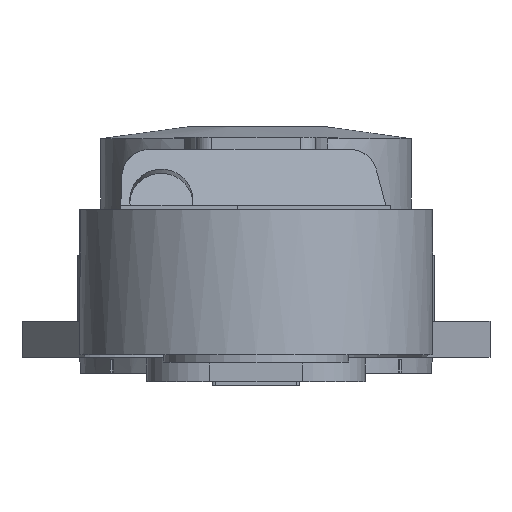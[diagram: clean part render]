
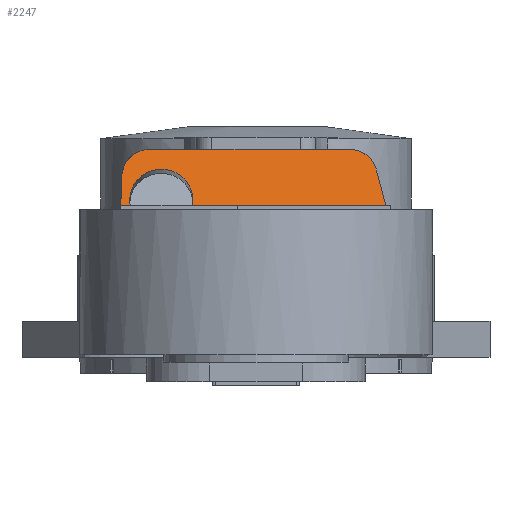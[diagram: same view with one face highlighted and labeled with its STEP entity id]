
A CAD part, left-side view. The second image highlights one B-rep face of the part: STEP entity #2247.
In plain terms, the highlighted planar face has unit normal (-0.966, 0, 0.259).
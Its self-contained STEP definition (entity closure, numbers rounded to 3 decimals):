
#88 = CARTESIAN_POINT ( 'NONE',  ( 834.042, -129.69, 429.765 ) ) ;
#103 = CARTESIAN_POINT ( 'NONE',  ( 834.462, -129.271, 431.33 ) ) ;
#111 = CARTESIAN_POINT ( 'NONE',  ( 832.242, 144.551, 423.047 ) ) ;
#152 = LINE ( 'NONE', #646, #1896 ) ;
#197 = CARTESIAN_POINT ( 'NONE',  ( 834.867, -128.73, 432.844 ) ) ;
#209 = CARTESIAN_POINT ( 'NONE',  ( 835.652, -127.412, 435.773 ) ) ;
#217 = CARTESIAN_POINT ( 'NONE',  ( 836.031, -126.636, 437.187 ) ) ;
#233 = CARTESIAN_POINT ( 'NONE',  ( 836.578, -125.285, 439.23 ) ) ;
#244 = CARTESIAN_POINT ( 'NONE',  ( 836.755, -124.807, 439.891 ) ) ;
#253 = CARTESIAN_POINT ( 'NONE',  ( 837.097, -123.805, 441.167 ) ) ;
#255 = FACE_OUTER_BOUND ( 'NONE', #2906, .T. ) ;
#262 = CARTESIAN_POINT ( 'NONE',  ( 837.263, -123.279, 441.784 ) ) ;
#273 = CARTESIAN_POINT ( 'NONE',  ( 837.741, -121.627, 443.569 ) ) ;
#288 = CARTESIAN_POINT ( 'NONE',  ( 838.037, -120.427, 444.673 ) ) ;
#339 = CARTESIAN_POINT ( 'NONE',  ( 838.444, -118.472, 446.193 ) ) ;
#349 = CARTESIAN_POINT ( 'NONE',  ( 838.572, -117.8, 446.672 ) ) ;
#366 = CARTESIAN_POINT ( 'NONE',  ( 838.813, -116.426, 447.569 ) ) ;
#386 = CARTESIAN_POINT ( 'NONE',  ( 838.925, -115.722, 447.988 ) ) ;
#399 = CARTESIAN_POINT ( 'NONE',  ( 839.239, -113.561, 449.159 ) ) ;
#406 = CARTESIAN_POINT ( 'NONE',  ( 839.417, -112.053, 449.824 ) ) ;
#420 = CARTESIAN_POINT ( 'NONE',  ( 839.708, -108.898, 450.91 ) ) ;
#427 = CARTESIAN_POINT ( 'NONE',  ( 839.817, -107.293, 451.316 ) ) ;
#446 = DIRECTION ( 'NONE',  ( -0.966, 0., 0.259 ) ) ;
#463 = CARTESIAN_POINT ( 'NONE',  ( 825.479, 102., 397.807 ) ) ;
#493 = CARTESIAN_POINT ( 'NONE',  ( 840., -102.388, 452. ) ) ;
#596 = CARTESIAN_POINT ( 'NONE',  ( 822.583, 69.894, 387. ) ) ;
#601 = CARTESIAN_POINT ( 'NONE',  ( 840., -100.712, 452. ) ) ;
#643 = CARTESIAN_POINT ( 'NONE',  ( 817.614, 146.457, 368.454 ) ) ;
#646 = CARTESIAN_POINT ( 'NONE',  ( 834.042, -129.69, 429.765 ) ) ;
#726 = VERTEX_POINT ( 'NONE', #111 ) ;
#770 = B_SPLINE_CURVE_WITH_KNOTS ( 'NONE', 3,
 ( #601, #493, #6117, #427, #420, #406, #399, #386, #366, #349, #339, #288, #273, #262, #253, #244, #233, #217, #209, #197, #103, #88 ),
 .UNSPECIFIED., .F., .F.,
 ( 4, 2, 2, 2, 2, 2, 2, 2, 2, 2, 4 ),
 ( 0., 0.005, 0.01, 0.015, 0.017, 0.02, 0.025, 0.027, 0.03, 0.035, 0.04 ),
 .UNSPECIFIED. ) ;
#1074 = CARTESIAN_POINT ( 'NONE',  ( 821.446, 132.22, 382.757 ) ) ;
#1154 =( BOUNDED_CURVE ( )  B_SPLINE_CURVE ( 3, ( #5841, #2236, #5350, #2258 ),
 .UNSPECIFIED., .F., .T. ) 
 B_SPLINE_CURVE_WITH_KNOTS ( ( 4, 4 ),
 ( 4.747, 6.283 ),
 .UNSPECIFIED. ) 
 CURVE ( )  GEOMETRIC_REPRESENTATION_ITEM ( )  RATIONAL_B_SPLINE_CURVE ( ( 1., 0.813, 0.813, 1. ) ) 
 REPRESENTATION_ITEM ( '' )  );
#1207 =( BOUNDED_CURVE ( )  B_SPLINE_CURVE ( 3, ( #1074, #4010, #643, #1496 ),
 .UNSPECIFIED., .F., .T. ) 
 B_SPLINE_CURVE_WITH_KNOTS ( ( 4, 4 ),
 ( 0.538, 1.536 ),
 .UNSPECIFIED. ) 
 CURVE ( )  GEOMETRIC_REPRESENTATION_ITEM ( )  RATIONAL_B_SPLINE_CURVE ( ( 1., 0.919, 0.919, 1. ) ) 
 REPRESENTATION_ITEM ( '' )  );
#1271 = VERTEX_POINT ( 'NONE', #4051 ) ;
#1281 = DIRECTION ( 'NONE',  ( -0.251, -0.251, -0.935 ) ) ;
#1496 = CARTESIAN_POINT ( 'NONE',  ( 814.825, 146.821, 358.047 ) ) ;
#1746 = AXIS2_PLACEMENT_3D ( 'NONE', #463, #446, #6151 ) ;
#1776 =( BOUNDED_CURVE ( )  B_SPLINE_CURVE ( 3, ( #2471, #2668, #2566, #2399 ),
 .UNSPECIFIED., .F., .T. ) 
 B_SPLINE_CURVE_WITH_KNOTS ( ( 4, 4 ),
 ( 5.052, 6.283 ),
 .UNSPECIFIED. ) 
 CURVE ( )  GEOMETRIC_REPRESENTATION_ITEM ( )  RATIONAL_B_SPLINE_CURVE ( ( 1., 0.878, 0.878, 1. ) ) 
 REPRESENTATION_ITEM ( '' )  );
#1896 = VECTOR ( 'NONE', #1281, 1000. ) ;
#2236 = CARTESIAN_POINT ( 'NONE',  ( 836.819, 143.954, 440.128 ) ) ;
#2247 = ADVANCED_FACE ( 'NONE', ( #255 ), #3399, .F. ) ;
#2258 = CARTESIAN_POINT ( 'NONE',  ( 840., 114.569, 452. ) ) ;
#2354 = CARTESIAN_POINT ( 'NONE',  ( 840., 114.569, 452. ) ) ;
#2399 = CARTESIAN_POINT ( 'NONE',  ( 822.583, -118.224, 387. ) ) ;
#2401 = CARTESIAN_POINT ( 'NONE',  ( 840., -100.712, 452. ) ) ;
#2471 = CARTESIAN_POINT ( 'NONE',  ( 817.224, -146.508, 367. ) ) ;
#2566 = CARTESIAN_POINT ( 'NONE',  ( 822.583, -131.38, 387. ) ) ;
#2668 = CARTESIAN_POINT ( 'NONE',  ( 820.548, -142.122, 379.404 ) ) ;
#2738 = CARTESIAN_POINT ( 'NONE',  ( 814.825, 146.821, 358.047 ) ) ;
#2773 = VERTEX_POINT ( 'NONE', #596 ) ;
#2829 = DIRECTION ( 'NONE',  ( 0., -1., 0. ) ) ;
#2906 = EDGE_LOOP ( 'NONE', ( #6165, #5975, #6194, #6199, #6170, #5790, #6022, #5968, #5533 ) ) ;
#3109 = LINE ( 'NONE', #2738, #4203 ) ;
#3378 = CARTESIAN_POINT ( 'NONE',  ( 840., 170., 452. ) ) ;
#3399 = PLANE ( 'NONE',  #4335 ) ;
#3417 = DIRECTION ( 'NONE',  ( 0.966, 0., -0.259 ) ) ;
#3425 = DIRECTION ( 'NONE',  ( -0.259, 0., -0.966 ) ) ;
#3640 = CARTESIAN_POINT ( 'NONE',  ( 822.583, 0., 387. ) ) ;
#3711 = CARTESIAN_POINT ( 'NONE',  ( 814.825, 146.821, 358.047 ) ) ;
#3739 = EDGE_CURVE ( 'NONE', #5193, #5880, #1776, .T. ) ;
#3963 = CARTESIAN_POINT ( 'NONE',  ( 817.224, -146.508, 367. ) ) ;
#3999 = CARTESIAN_POINT ( 'NONE',  ( 822.583, -118.224, 387. ) ) ;
#4010 = CARTESIAN_POINT ( 'NONE',  ( 820.016, 141.16, 377.418 ) ) ;
#4051 = CARTESIAN_POINT ( 'NONE',  ( 834.042, -129.69, 429.765 ) ) ;
#4065 = VERTEX_POINT ( 'NONE', #2401 ) ;
#4070 = VECTOR ( 'NONE', #2829, 1000. ) ;
#4074 = VERTEX_POINT ( 'NONE', #2354 ) ;
#4104 = LINE ( 'NONE', #5903, #4070 ) ;
#4203 = VECTOR ( 'NONE', #6325, 1000. ) ;
#4205 = EDGE_CURVE ( 'NONE', #1271, #5193, #152, .T. ) ;
#4214 = EDGE_CURVE ( 'NONE', #2773, #5343, #4859, .T. ) ;
#4225 = EDGE_CURVE ( 'NONE', #4065, #1271, #770, .T. ) ;
#4280 = VECTOR ( 'NONE', #5737, 1000. ) ;
#4313 = LINE ( 'NONE', #3640, #4280 ) ;
#4335 = AXIS2_PLACEMENT_3D ( 'NONE', #3378, #3417, #3425 ) ;
#4844 = EDGE_CURVE ( 'NONE', #2773, #5880, #4313, .T. ) ;
#4859 = CIRCLE ( 'NONE', #1746, 34. ) ;
#4937 = EDGE_CURVE ( 'NONE', #6109, #726, #3109, .T. ) ;
#5020 = EDGE_CURVE ( 'NONE', #726, #4074, #1154, .T. ) ;
#5065 = EDGE_CURVE ( 'NONE', #4074, #4065, #4104, .T. ) ;
#5193 = VERTEX_POINT ( 'NONE', #3963 ) ;
#5255 = EDGE_CURVE ( 'NONE', #5343, #6109, #1207, .T. ) ;
#5343 = VERTEX_POINT ( 'NONE', #6159 ) ;
#5350 = CARTESIAN_POINT ( 'NONE',  ( 840., 131.66, 452. ) ) ;
#5533 = ORIENTED_EDGE ( 'NONE', *, *, #5255, .F. ) ;
#5737 = DIRECTION ( 'NONE',  ( 0., -1., 0. ) ) ;
#5790 = ORIENTED_EDGE ( 'NONE', *, *, #5065, .F. ) ;
#5841 = CARTESIAN_POINT ( 'NONE',  ( 832.242, 144.551, 423.047 ) ) ;
#5880 = VERTEX_POINT ( 'NONE', #3999 ) ;
#5903 = CARTESIAN_POINT ( 'NONE',  ( 840., 170., 452. ) ) ;
#5968 = ORIENTED_EDGE ( 'NONE', *, *, #4937, .F. ) ;
#5975 = ORIENTED_EDGE ( 'NONE', *, *, #4844, .T. ) ;
#6022 = ORIENTED_EDGE ( 'NONE', *, *, #5020, .F. ) ;
#6109 = VERTEX_POINT ( 'NONE', #3711 ) ;
#6117 = CARTESIAN_POINT ( 'NONE',  ( 839.963, -104.039, 451.861 ) ) ;
#6151 = DIRECTION ( 'NONE',  ( -0.259, 0., -0.966 ) ) ;
#6159 = CARTESIAN_POINT ( 'NONE',  ( 821.446, 132.22, 382.757 ) ) ;
#6165 = ORIENTED_EDGE ( 'NONE', *, *, #4214, .F. ) ;
#6170 = ORIENTED_EDGE ( 'NONE', *, *, #4225, .F. ) ;
#6194 = ORIENTED_EDGE ( 'NONE', *, *, #3739, .F. ) ;
#6199 = ORIENTED_EDGE ( 'NONE', *, *, #4205, .F. ) ;
#6325 = DIRECTION ( 'NONE',  ( 0.259, -0.034, 0.965 ) ) ;
